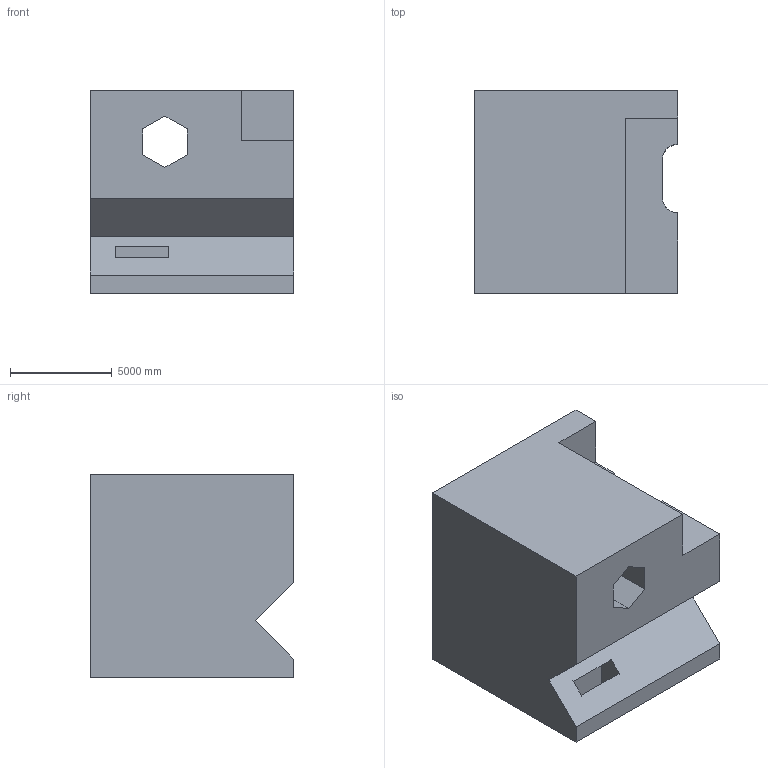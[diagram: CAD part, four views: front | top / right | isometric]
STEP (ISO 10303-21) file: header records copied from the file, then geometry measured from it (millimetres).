
FILE_DESCRIPTION (( 'STEP AP203' ), '1' );
FILE_NAME ('320.STEP', '2022-09-07T12:50:52', ( 'user' ), ( '' ), 'SwSTEP 2.0', 'SolidWorks 2021', '' );
FILE_SCHEMA (( 'CONFIG_CONTROL_DESIGN' ));
Length unit declared in the file: centimetre
Products named in the file (1): 320
Bounding box: 10000 x 10000 x 10000 mm (x, y, z)
Volume: 791969041231.7 mm3; surface area: 754936885.4 mm2
Topology: 1 solids, 1 shells, 36 faces, 99 edges, 66 vertices
Faces by surface type: plane 33, cylinder 3
Entity records: 1300 total; most frequent: CARTESIAN_POINT 290, ORIENTED_EDGE 198, DIRECTION 178, EDGE_CURVE 99, LINE 92, VECTOR 92, VERTEX_POINT 66, AXIS2_PLACEMENT_3D 43
